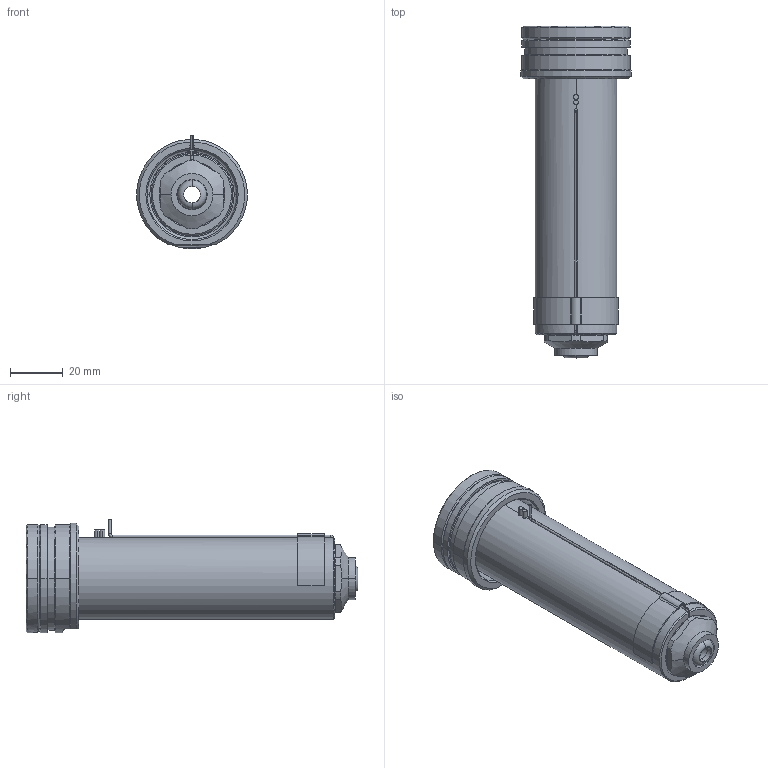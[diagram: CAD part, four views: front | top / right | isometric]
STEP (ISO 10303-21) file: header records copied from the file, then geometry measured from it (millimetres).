
FILE_DESCRIPTION((''),'2;1');
FILE_NAME('EO12_VG-BL_WR_110_SW','2024-02-19T13:16:21',('sundharh'),(''),'CREO PARAMETRIC BY PTC INC, 2023154','CREO PARAMETRIC BY PTC INC, 2023154','');
FILE_SCHEMA(('CONFIG_CONTROL_DESIGN'));
Length unit declared in the file: millimetre
Products named in the file (1): EO12_VG-BL_WR_110_SW
Bounding box: 41.85 x 125.8 x 43 mm (x, y, z)
Volume: 86181.6 mm3; surface area: 24837.5 mm2
Topology: 2 solids, 3 shells, 205 faces, 508 edges, 307 vertices
Faces by surface type: cylinder 73, plane 47, cone 39, torus 35, bspline 9, sphere 2
Entity records: 6941 total; most frequent: CARTESIAN_POINT 1965, DIRECTION 1108, ORIENTED_EDGE 1012, EDGE_CURVE 506, AXIS2_PLACEMENT_3D 467, VERTEX_POINT 307, CIRCLE 271, EDGE_LOOP 221
